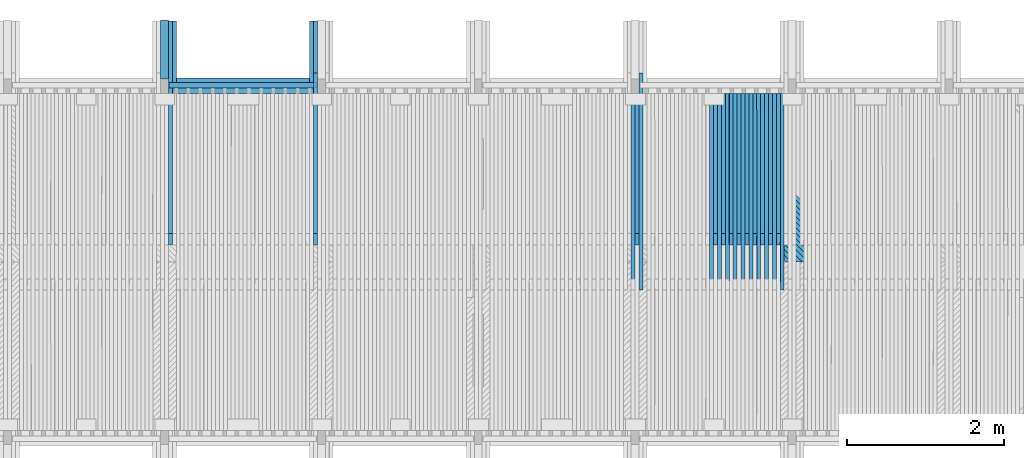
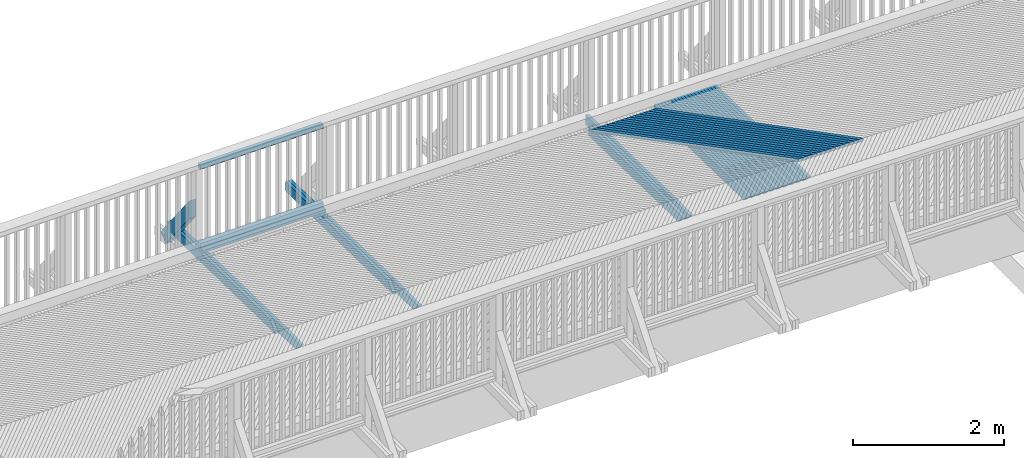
# One storey, part 36 of 53: 44 beams, 1 member.
"""IFC2X3 building model written with IfcOpenShell, lengths in millimetres."""

from ifc_helpers import new_model, si_unit, frame, origin_with_axes, place, context, subcontext, project, spatial, faceted_brep, material, type_object, element, save


model = new_model("IFC2X3")

# Units and contexts
model_context = context("Model", 3, precision=1e-05, world=origin_with_axes())
body_context = subcontext(model_context, "Body", "Model", "MODEL_VIEW")
ifc_project = project(units=[si_unit("LENGTHUNIT", "METRE", prefix="MILLI"), si_unit("AREAUNIT", "SQUARE_METRE"), si_unit("VOLUMEUNIT", "CUBIC_METRE"), si_unit("MASSUNIT", "GRAM", prefix="KILO"), si_unit("TIMEUNIT", "SECOND"), si_unit("PLANEANGLEUNIT", "RADIAN"), si_unit("SOLIDANGLEUNIT", "STERADIAN"), si_unit("THERMODYNAMICTEMPERATUREUNIT", "DEGREE_CELSIUS"), si_unit("LUMINOUSINTENSITYUNIT", "LUMEN")], contexts=[model_context])

# Site, building, storey
site_placement = place(None, origin_with_axes())
site = spatial("IfcSite", under=ifc_project, at=site_placement, Name="Undefined", CompositionType="ELEMENT")
building_placement = place(site_placement, origin_with_axes())
building = spatial("IfcBuilding", under=site, at=building_placement, Name="Undefined", CompositionType="ELEMENT")
storey_placement = place(building_placement, origin_with_axes())
storey = spatial("IfcBuildingStorey", under=building, at=storey_placement, Name="Undefined", CompositionType="ELEMENT", Elevation=0.0)

# Member
ifc_material = material(Name="TIMBER/Timber_Undefined")
member_type = type_object("IfcMemberType", Name="180*100", PredefinedType="NOTDEFINED")
member_placement = place(storey_placement, frame((4000.00641464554, 45378.7683991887, 2940.69175508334), z_axis=(0.0, 0.783926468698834, 0.620853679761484), x_axis=(-4.01699999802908e-06, -0.620853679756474, 0.78392646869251)))
element("IfcMember", 1, at=member_placement, inside=storey, type_object=member_type, material=ifc_material, Name="KAIDEPYLVÄS", ObjectType="180*100", context=body_context, shape_type="Brep", body=[
    faceted_brep([(0.0, 50.0, -89.9999999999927), (0.0, 50.0, 90.0), (1214.99440716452, 50.0, 90.0000000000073), (987.715792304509, 50.0, -89.9999999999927), (0.0, -49.9999999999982, 90.0000000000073), (1214.99480886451, -50.0, 90.0000000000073), (-3.63797880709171e-12, -49.9999999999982, -90.0), (987.716194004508, -49.9999999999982, -89.9999999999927)], [[[0, 1, 2, 3]], [[1, 4, 5, 2]], [[4, 6, 7, 5]], [[6, 0, 3, 7]], [[5, 7, 3, 2]], [[6, 4, 1, 0]]]),
])

# Beams
beam_type_1 = type_object("IfcBeamType", Name="70*70", PredefinedType="NOTDEFINED")
for number, where, z_axis, x_axis, name in (
    (2, (4060.18309001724, 44619.9900684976, 3250.0866908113), (0.0, 1.0, 0.0), (0.999986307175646, 0.0, 0.00523311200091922), "BEAM"),
    (3, (4060.18309001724, 44619.9900684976, 4515.0866908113), (0.0, 1.0, 0.0), (0.999986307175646, 0.0, 0.00523311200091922), "BEAM"),
):
    element("IfcBeam", number, at=place(storey_placement, frame(where, z_axis=z_axis, x_axis=x_axis)), inside=storey, type_object=beam_type_1, material=ifc_material, Name=name, ObjectType="70*70", context=body_context, shape_type="Brep", body=[
        faceted_brep([(-3.63797880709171e-12, 35.0000000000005, -35.0), (-3.63797880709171e-12, 35.0000000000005, 35.0), (1880.02601672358, 34.9999999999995, 35.0), (1880.02601672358, 34.9999999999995, -35.0), (-3.63797880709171e-12, -34.9999999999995, 35.0), (1880.02601672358, -35.0000000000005, 35.0), (-3.63797880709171e-12, -34.9999999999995, -35.0), (1880.02601672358, -35.0000000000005, -35.0)], [[[0, 1, 2, 3]], [[1, 4, 5, 2]], [[4, 6, 7, 5]], [[6, 0, 3, 7]], [[5, 7, 3, 2]], [[6, 4, 1, 0]]]),
    ])
beam_type_2 = type_object("IfcBeamType", Name="195*40", PredefinedType="NOTDEFINED")
beam_1_placement = place(storey_placement, frame((4059.61460211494, 44612.4900684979, 3195.09221066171), z_axis=(0.0, 1.0, 0.0), x_axis=(0.999986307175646, 0.0, 0.00523311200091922)))
element("IfcBeam", 4, at=beam_1_placement, inside=storey, type_object=beam_type_2, material=ifc_material, Name="BEAM", ObjectType="195*40", context=body_context, shape_type="Brep", body=[
    faceted_brep([(0.0, 20.0, -97.5), (0.0, 20.0, 97.5), (1880.22135781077, 19.9999999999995, 97.5), (1880.22135781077, 19.9999999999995, -97.5), (3.63797880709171e-12, -20.0, 97.5), (1880.22135781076, -20.0000000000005, 97.5), (3.63797880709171e-12, -20.0, -97.5), (1880.22135781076, -20.0000000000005, -97.5)], [[[0, 1, 2, 3]], [[1, 4, 5, 2]], [[4, 6, 7, 5]], [[6, 0, 3, 7]], [[5, 7, 3, 2]], [[6, 4, 1, 0]]]),
])
beam_type_3 = type_object("IfcBeamType", Name="50*50", PredefinedType="NOTDEFINED")
for number, where, z_axis, x_axis, name in (
    (5, (12874.2769605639, 42365.4998996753, 3216.39230435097), (0.70698710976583, 0.706981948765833, -0.0185943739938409), (-0.707198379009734, 0.706948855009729, -0.00968344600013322), "BEAM"),
    (6, (12803.5550110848, 42365.4998996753, 3216.96068661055), (0.706989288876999, 0.706981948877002, -0.0185113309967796), (-0.707197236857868, 0.706948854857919, -0.00976651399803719), "BEAM"),
    (7, (12732.832995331, 42365.4998996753, 3217.52076181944), (0.706991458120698, 0.706981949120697, -0.0184282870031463), (-0.707196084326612, 0.706948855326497, -0.00984958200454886), "BEAM"),
    (8, (12662.1109142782, 42365.4998996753, 3218.07252996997), (0.706993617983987, 0.706981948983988, -0.0183452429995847), (-0.707194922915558, 0.706948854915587, -0.00993264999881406), "BEAM"),
    (9, (12591.3887689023, 42365.4998996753, 3218.61599105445), (0.706995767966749, 0.706981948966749, -0.0182621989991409), (-0.707193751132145, 0.706948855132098, -0.0100157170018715), "BEAM"),
    (10, (12520.666560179, 42365.4998996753, 3219.15114506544), (0.706997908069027, 0.706981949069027, -0.0181791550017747), (-0.707192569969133, 0.706948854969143, -0.0100987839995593), "BEAM"),
    (11, (12449.944289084, 42365.4998996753, 3219.67799199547), (0.707000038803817, 0.706981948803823, -0.0180961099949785), (-0.707191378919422, 0.706948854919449, -0.0101818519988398), "BEAM"),
    (12, (12379.2219565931, 42365.4998996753, 3220.19653183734), (0.70700215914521, 0.706981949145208, -0.0180130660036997), (-0.707190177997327, 0.706948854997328, -0.0102649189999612), "BEAM"),
    (13, (12308.499563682, 42365.4998996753, 3220.70676458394), (0.707004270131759, 0.706981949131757, -0.0179300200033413), (-0.707188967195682, 0.706948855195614, -0.0103479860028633), "BEAM"),
    (14, (12237.7771113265, 42365.4998996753, 3221.20869022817), (0.707006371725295, 0.706981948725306, -0.0178469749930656), (-0.707187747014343, 0.706948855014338, -0.0104310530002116), "BEAM"),
    (15, (12167.0546005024, 42365.4998996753, 3221.70230876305), (0.707008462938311, 0.706981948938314, -0.0177639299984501), (-0.70718651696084, 0.706948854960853, -0.0105141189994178), "BEAM"),
    (16, (12096.3320321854, 42365.4998996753, 3222.18762018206), (0.707010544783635, 0.706981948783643, -0.017680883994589), (-0.707185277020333, 0.706948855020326, -0.0105971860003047), "BEAM"),
    (17, (12025.6094073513, 42365.4998996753, 3222.66462447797), (0.70701261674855, 0.706981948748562, -0.0175978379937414), (-0.707184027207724, 0.706948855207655, -0.0106802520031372), "BEAM"),
    (18, (11954.8867269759, 42365.4998996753, 3223.13332164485), (0.707014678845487, 0.706981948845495, -0.0175147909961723), (-0.707182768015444, 0.706948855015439, -0.0107633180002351), "BEAM"),
):
    element("IfcBeam", number, at=place(storey_placement, frame(where, z_axis=z_axis, x_axis=x_axis)), inside=storey, type_object=beam_type_3, material=ifc_material, Name=name, ObjectType="50*50", context=body_context, shape_type="Brep", body=[
        faceted_brep([(23.5869248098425, 25.0000000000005, -24.9999999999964), (-26.415415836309, 25.0000000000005, 25.0000000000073), (2802.92643296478, 25.0, 25.0), (2852.92877373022, 25.0, -25.0000000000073), (-25.001170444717, -24.9999999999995, 25.0000000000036), (2804.3406783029, -25.0, 24.9999999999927), (25.0011701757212, -24.9999999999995, -24.9999999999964), (2854.34301907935, -25.0, -25.0)], [[[0, 1, 2, 3]], [[1, 4, 5, 2]], [[4, 6, 7, 5]], [[6, 0, 3, 7]], [[5, 7, 3, 2]], [[6, 4, 1, 0]]]),
    ])
beam_type_4 = type_object("IfcBeamType", Name="150*50", PredefinedType="NOTDEFINED")
beam_2_placement = place(storey_placement, frame((4125.55027576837, 45437.2106523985, 3062.2023750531), z_axis=(-0.00643456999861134, 0.0199960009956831, 0.999779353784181), x_axis=(-0.000130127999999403, -0.999800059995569, 0.0199955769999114)))
element("IfcBeam", 19, at=beam_2_placement, inside=storey, type_object=beam_type_4, material=ifc_material, Name="BEAM", ObjectType="150*50", context=body_context, shape_type="Brep", body=[
    faceted_brep([(1.28420651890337e-08, -24.9999999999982, -74.9999999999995), (1.28420651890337e-08, 25.0000000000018, -75.0), (3298.90492234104, 25.0, -75.0), (3298.90497884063, -24.9999999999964, -75.0), (-1.28347892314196e-08, -24.9999999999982, 75.0), (-1.28347892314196e-08, 25.0, 75.0), (3074.32503673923, 25.0000000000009, 75.0), (3434.49245887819, 25.0, 60.5875365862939), (3434.49251531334, -24.9999999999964, 60.587536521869), (3074.32509060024, -24.9999999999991, 75.0)], [[[0, 1, 2, 3]], [[0, 4, 5, 1]], [[2, 1, 5, 6, 7]], [[3, 2, 7, 8]], [[4, 0, 3, 8, 9]], [[5, 4, 9, 6]], [[8, 7, 6, 9]]]),
])
beam_3_placement = place(storey_placement, frame((4075.53352582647, 45437.2106678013, 3061.88046641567), z_axis=(-0.00660068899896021, 0.01999600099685, 0.999778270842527), x_axis=(-0.000133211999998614, -0.999800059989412, 0.0199955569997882)))
element("IfcBeam", 20, at=beam_3_placement, inside=storey, type_object=beam_type_4, material=ifc_material, Name="BEAM", ObjectType="150*50", context=body_context, shape_type="Brep", body=[
    faceted_brep([(1.28420651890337e-08, -24.9999999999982, -74.9999999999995), (-1.28347892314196e-08, -24.9999999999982, 75.0), (-1.28347892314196e-08, 25.0, 75.0), (1.28420651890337e-08, 25.0000000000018, -75.0), (2852.32643692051, 24.9999999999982, -75.0000000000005), (2852.32648139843, -25.0000000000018, -75.0000000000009), (2713.86938248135, -25.0000000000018, 74.9999999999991), (2713.86933800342, 25.0000000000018, 75.0)], [[[0, 1, 2, 3]], [[0, 3, 4, 5]], [[1, 0, 5, 6]], [[2, 1, 6, 7]], [[3, 2, 7, 4]], [[5, 4, 7, 6]]]),
])
beam_4_placement = place(storey_placement, frame((5875.30203746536, 45437.2106832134, 3070.92534624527), z_axis=(-0.00361070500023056, 0.0199960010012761, 0.999793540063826), x_axis=(-7.09809999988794e-05, -0.999800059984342, 0.0199958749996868)))
element("IfcBeam", 21, at=beam_4_placement, inside=storey, type_object=beam_type_4, material=ifc_material, Name="BEAM", ObjectType="150*50", context=body_context, shape_type="Brep", body=[
    faceted_brep([(1.28420651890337e-08, -24.9999999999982, -74.9999999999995), (-1.28347892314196e-08, -24.9999999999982, 75.0), (-1.28347892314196e-08, 25.0, 75.0), (1.28420651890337e-08, 25.0000000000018, -75.0), (2852.32649585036, 25.0, -74.9999999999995), (2852.32641872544, -25.0, -74.9999999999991), (2713.86931991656, -25.0, 75.0), (2713.86939704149, 24.9999999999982, 75.0000000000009)], [[[0, 1, 2, 3]], [[0, 3, 4, 5]], [[1, 0, 5, 6]], [[2, 1, 6, 7]], [[3, 2, 7, 4]], [[5, 4, 7, 6]]]),
])
beam_5_placement = place(storey_placement, frame((5925.32402066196, 45437.2106678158, 3071.09768860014), z_axis=(-0.00344458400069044, 0.0199960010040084, 0.999794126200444), x_axis=(-6.91999999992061e-05, -0.999800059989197, 0.019995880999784)))
element("IfcBeam", 22, at=beam_5_placement, inside=storey, type_object=beam_type_4, material=ifc_material, Name="BEAM", ObjectType="150*50", context=body_context, shape_type="Brep", body=[
    faceted_brep([(1.28420651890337e-08, -24.9999999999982, -74.9999999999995), (1.28420651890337e-08, 25.0000000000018, -75.0), (3298.90492234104, 25.0, -75.0), (3298.90497884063, -24.9999999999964, -75.0), (-1.28347892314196e-08, -24.9999999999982, 75.0), (-1.28347892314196e-08, 25.0, 75.0), (3074.32503673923, 25.0000000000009, 75.0), (3434.49245887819, 25.0, 60.5875365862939), (3434.49251531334, -24.9999999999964, 60.587536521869), (3074.32503029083, -25.0, 75.0000000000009)], [[[0, 1, 2, 3]], [[0, 4, 5, 1]], [[2, 1, 5, 6, 7]], [[3, 2, 7, 8]], [[4, 0, 3, 8, 9]], [[5, 4, 9, 6]], [[8, 7, 6, 9]]]),
])
for number, where, z_axis, x_axis, name in (
    (23, (11875.3256007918, 44513.4953923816, 3080.67367306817), (0.0063570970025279, 0.0199960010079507, 0.999779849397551), (0.000127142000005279, -0.99980006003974, 0.0199955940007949), "BEAM"),
    (24, (11775.3075869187, 44513.4953923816, 3081.30926986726), (0.00619097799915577, 0.019996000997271, 0.999780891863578), (0.000123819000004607, -0.999800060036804, 0.019995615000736), "BEAM"),
):
    element("IfcBeam", number, at=place(storey_placement, frame(where, z_axis=z_axis, x_axis=x_axis)), inside=storey, type_object=beam_type_4, material=ifc_material, Name=name, ObjectType="150*50", context=body_context, shape_type="Brep", body=[
        faceted_brep([(1.28420651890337e-08, -24.9999999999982, -74.9999999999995), (1.28420651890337e-08, 25.0000000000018, -75.0), (2375.00494422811, 25.0000000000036, -75.0), (2375.0049444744, -24.9999999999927, -74.9999999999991), (-1.28347892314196e-08, -24.9999999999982, 75.0), (-1.28347892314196e-08, 25.0, 75.0), (2150.42515052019, 25.0000000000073, 75.0), (2510.59248715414, 25.0000000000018, 60.5875433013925), (2510.5924871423, -24.9999999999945, 60.5875430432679), (2150.42514405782, -24.9999999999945, 75.0)], [[[0, 1, 2, 3]], [[0, 4, 5, 1]], [[2, 1, 5, 6, 7]], [[3, 2, 7, 8]], [[4, 0, 3, 8, 9]], [[5, 4, 9, 6]], [[8, 7, 6, 9]]]),
    ])
beam_6_placement = place(storey_placement, frame((11825.3266087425, 44513.4953923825, 3080.99122584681), z_axis=(0.0063570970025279, 0.0199960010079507, 0.999779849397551), x_axis=(0.000127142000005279, -0.99980006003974, 0.0199955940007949)))
element("IfcBeam", 25, at=beam_6_placement, inside=storey, type_object=beam_type_4, material=ifc_material, Name="BEAM", ObjectType="150*50", context=body_context, shape_type="Brep", body=[
    faceted_brep([(1.28420651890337e-08, -24.9999999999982, -74.9999999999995), (-1.28347892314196e-08, -24.9999999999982, 75.0), (-1.28347892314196e-08, 25.0, 75.0), (1.28420651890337e-08, 25.0000000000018, -75.0), (1789.96936408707, 24.9999999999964, 75.0000000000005), (1928.42646328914, 24.9999999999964, -74.9999999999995), (1928.42646353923, -25.0000000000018, -75.0), (1789.96936433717, -25.0000000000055, 74.9999999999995)], [[[0, 1, 2, 3]], [[3, 2, 4, 5]], [[0, 3, 5, 6]], [[1, 0, 6, 7]], [[2, 1, 7, 4]], [[5, 4, 7, 6]]]),
])
beam_7_placement = place(storey_placement, frame((11675.2894688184, 44513.4953923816, 3081.92824813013), z_axis=(0.00602485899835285, 0.0199960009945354, 0.9997819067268), x_axis=(0.000120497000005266, -0.9998000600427, 0.019995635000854)))
element("IfcBeam", 26, at=beam_7_placement, inside=storey, type_object=beam_type_4, material=ifc_material, Name="BEAM", ObjectType="150*50", context=body_context, shape_type="Brep", body=[
    faceted_brep([(1.28420651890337e-08, -24.9999999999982, -74.9999999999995), (1.28420651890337e-08, 25.0000000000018, -75.0), (2375.00494422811, 25.0000000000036, -75.0), (2375.0049444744, -24.9999999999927, -74.9999999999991), (-1.28347892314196e-08, -24.9999999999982, 75.0), (-1.28347892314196e-08, 25.0, 75.0), (2150.42515052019, 25.0000000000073, 75.0), (2510.59248715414, 25.0000000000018, 60.5875433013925), (2510.5924871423, -24.9999999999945, 60.5875430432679), (2150.42514405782, -24.9999999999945, 75.0)], [[[0, 1, 2, 3]], [[0, 4, 5, 1]], [[2, 1, 5, 6, 7]], [[3, 2, 7, 8]], [[4, 0, 3, 8, 9]], [[5, 4, 9, 6]], [[8, 7, 6, 9]]]),
])
beam_8_placement = place(storey_placement, frame((11725.3085427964, 44513.4953923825, 3081.61851504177), z_axis=(0.00619097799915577, 0.019996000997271, 0.999780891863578), x_axis=(0.000123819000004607, -0.999800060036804, 0.019995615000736)))
element("IfcBeam", 27, at=beam_8_placement, inside=storey, type_object=beam_type_4, material=ifc_material, Name="BEAM", ObjectType="150*50", context=body_context, shape_type="Brep", body=[
    faceted_brep([(1.28420651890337e-08, -24.9999999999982, -74.9999999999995), (-1.28347892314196e-08, -24.9999999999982, 75.0), (-1.28347892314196e-08, 25.0, 75.0), (1.28420651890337e-08, 25.0000000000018, -75.0), (1789.96936408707, 24.9999999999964, 75.0000000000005), (1928.42646328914, 24.9999999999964, -74.9999999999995), (1928.42646353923, -25.0000000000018, -75.0), (1789.96936433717, -25.0000000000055, 74.9999999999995)], [[[0, 1, 2, 3]], [[3, 2, 4, 5]], [[0, 3, 5, 6]], [[1, 0, 6, 7]], [[2, 1, 7, 4]], [[5, 4, 7, 6]]]),
])
beam_9_placement = place(storey_placement, frame((11575.2712492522, 44513.4953923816, 3082.53060783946), z_axis=(0.00585873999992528, 0.0199960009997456, 0.999782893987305), x_axis=(0.000117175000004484, -0.999800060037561, 0.0199956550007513)))
element("IfcBeam", 28, at=beam_9_placement, inside=storey, type_object=beam_type_4, material=ifc_material, Name="BEAM", ObjectType="150*50", context=body_context, shape_type="Brep", body=[
    faceted_brep([(1.28420651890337e-08, -24.9999999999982, -74.9999999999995), (1.28420651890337e-08, 25.0000000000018, -75.0), (2375.00494422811, 25.0000000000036, -75.0), (2375.0049444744, -24.9999999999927, -74.9999999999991), (-1.28347892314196e-08, -24.9999999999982, 75.0), (-1.28347892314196e-08, 25.0, 75.0), (2150.42515052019, 25.0000000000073, 75.0), (2510.59248715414, 25.0000000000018, 60.5875433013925), (2510.5924871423, -24.9999999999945, 60.5875430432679), (2150.42514405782, -24.9999999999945, 75.0)], [[[0, 1, 2, 3]], [[0, 4, 5, 1]], [[2, 1, 5, 6, 7]], [[3, 2, 7, 8]], [[4, 0, 3, 8, 9]], [[5, 4, 9, 6]], [[8, 7, 6, 9]]]),
])
beam_10_placement = place(storey_placement, frame((11625.2903740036, 44513.4953923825, 3082.22918569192), z_axis=(0.00602485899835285, 0.0199960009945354, 0.9997819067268), x_axis=(0.000120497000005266, -0.9998000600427, 0.019995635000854)))
element("IfcBeam", 29, at=beam_10_placement, inside=storey, type_object=beam_type_4, material=ifc_material, Name="BEAM", ObjectType="150*50", context=body_context, shape_type="Brep", body=[
    faceted_brep([(1.28420651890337e-08, -24.9999999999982, -74.9999999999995), (-1.28347892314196e-08, -24.9999999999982, 75.0), (-1.28347892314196e-08, 25.0, 75.0), (1.28420651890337e-08, 25.0000000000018, -75.0), (1789.96936408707, 24.9999999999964, 75.0000000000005), (1928.42646328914, 24.9999999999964, -74.9999999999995), (1928.42646353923, -25.0000000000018, -75.0), (1789.96936433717, -25.0000000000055, 74.9999999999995)], [[[0, 1, 2, 3]], [[3, 2, 4, 5]], [[0, 3, 5, 6]], [[1, 0, 6, 7]], [[2, 1, 7, 4]], [[5, 4, 7, 6]]]),
])
beam_11_placement = place(storey_placement, frame((11475.2529309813, 44513.4953923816, 3083.11634897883), z_axis=(0.00569262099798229, 0.0199960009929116, 0.999783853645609), x_axis=(0.000113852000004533, -0.999800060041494, 0.0199956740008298)))
element("IfcBeam", 30, at=beam_11_placement, inside=storey, type_object=beam_type_4, material=ifc_material, Name="BEAM", ObjectType="150*50", context=body_context, shape_type="Brep", body=[
    faceted_brep([(1.28420651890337e-08, -24.9999999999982, -74.9999999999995), (1.28420651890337e-08, 25.0000000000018, -75.0), (2375.00494422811, 25.0000000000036, -75.0), (2375.0049444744, -24.9999999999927, -74.9999999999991), (-1.28347892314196e-08, -24.9999999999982, 75.0), (-1.28347892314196e-08, 25.0, 75.0), (2150.42515052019, 25.0000000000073, 75.0), (2510.59248715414, 25.0000000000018, 60.5875433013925), (2510.5924871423, -24.9999999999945, 60.5875430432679), (2150.42514405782, -24.9999999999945, 75.0)], [[[0, 1, 2, 3]], [[0, 4, 5, 1]], [[2, 1, 5, 6, 7]], [[3, 2, 7, 8]], [[4, 0, 3, 8, 9]], [[5, 4, 9, 6]], [[8, 7, 6, 9]]]),
])
beam_12_placement = place(storey_placement, frame((11525.2721051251, 44513.4953923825, 3082.82323778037), z_axis=(0.00585873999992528, 0.0199960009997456, 0.999782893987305), x_axis=(0.000117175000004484, -0.999800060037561, 0.0199956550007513)))
element("IfcBeam", 31, at=beam_12_placement, inside=storey, type_object=beam_type_4, material=ifc_material, Name="BEAM", ObjectType="150*50", context=body_context, shape_type="Brep", body=[
    faceted_brep([(1.28420651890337e-08, -24.9999999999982, -74.9999999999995), (-1.28347892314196e-08, -24.9999999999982, 75.0), (-1.28347892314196e-08, 25.0, 75.0), (1.28420651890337e-08, 25.0000000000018, -75.0), (1789.96936408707, 24.9999999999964, 75.0000000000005), (1928.42646328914, 24.9999999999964, -74.9999999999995), (1928.42646353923, -25.0000000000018, -75.0), (1789.96936433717, -25.0000000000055, 74.9999999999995)], [[[0, 1, 2, 3]], [[3, 2, 4, 5]], [[0, 3, 5, 6]], [[1, 0, 6, 7]], [[2, 1, 7, 4]], [[5, 4, 7, 6]]]),
])
beam_13_placement = place(storey_placement, frame((11375.234516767, 44513.4953923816, 3083.68547153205), z_axis=(0.00552650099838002, 0.0199960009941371, 0.999784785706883), x_axis=(0.000110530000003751, -0.999800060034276, 0.0199956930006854)))
element("IfcBeam", 32, at=beam_13_placement, inside=storey, type_object=beam_type_4, material=ifc_material, Name="BEAM", ObjectType="150*50", context=body_context, shape_type="Brep", body=[
    faceted_brep([(1.28420651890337e-08, -24.9999999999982, -74.9999999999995), (1.28420651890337e-08, 25.0000000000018, -75.0), (2375.00494422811, 25.0000000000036, -75.0), (2375.0049444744, -24.9999999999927, -74.9999999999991), (-1.28347892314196e-08, -24.9999999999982, 75.0), (-1.28347892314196e-08, 25.0, 75.0), (2150.42515052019, 25.0000000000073, 75.0), (2510.59248715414, 25.0000000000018, 60.5875433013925), (2510.5924871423, -24.9999999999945, 60.5875430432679), (2150.42514405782, -24.9999999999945, 75.0)], [[[0, 1, 2, 3]], [[0, 4, 5, 1]], [[2, 1, 5, 6, 7]], [[3, 2, 7, 8]], [[4, 0, 3, 8, 9]], [[5, 4, 9, 6]], [[8, 7, 6, 9]]]),
])
beam_14_placement = place(storey_placement, frame((11425.2537389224, 44513.4953923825, 3083.4006712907), z_axis=(0.00569262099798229, 0.0199960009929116, 0.999783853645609), x_axis=(0.000113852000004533, -0.999800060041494, 0.0199956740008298)))
element("IfcBeam", 33, at=beam_14_placement, inside=storey, type_object=beam_type_4, material=ifc_material, Name="BEAM", ObjectType="150*50", context=body_context, shape_type="Brep", body=[
    faceted_brep([(1.28420651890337e-08, -24.9999999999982, -74.9999999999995), (-1.28347892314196e-08, -24.9999999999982, 75.0), (-1.28347892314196e-08, 25.0, 75.0), (1.28420651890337e-08, 25.0000000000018, -75.0), (1789.96936408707, 24.9999999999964, 75.0000000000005), (1928.42646328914, 24.9999999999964, -74.9999999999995), (1928.42646353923, -25.0000000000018, -75.0), (1789.96936433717, -25.0000000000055, 74.9999999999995)], [[[0, 1, 2, 3]], [[3, 2, 4, 5]], [[0, 3, 5, 6]], [[1, 0, 6, 7]], [[2, 1, 7, 4]], [[5, 4, 7, 6]]]),
])
beam_15_placement = place(storey_placement, frame((11275.2160093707, 44513.4953923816, 3084.23797548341), z_axis=(0.00536038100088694, 0.0199960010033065, 0.999785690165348), x_axis=(0.000107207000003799, -0.999800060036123, 0.0199957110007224)))
element("IfcBeam", 34, at=beam_15_placement, inside=storey, type_object=beam_type_4, material=ifc_material, Name="BEAM", ObjectType="150*50", context=body_context, shape_type="Brep", body=[
    faceted_brep([(1.28420651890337e-08, -24.9999999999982, -74.9999999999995), (1.28420651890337e-08, 25.0000000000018, -75.0), (2375.00494422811, 25.0000000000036, -75.0), (2375.0049444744, -24.9999999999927, -74.9999999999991), (-1.28347892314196e-08, -24.9999999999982, 75.0), (-1.28347892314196e-08, 25.0, 75.0), (2150.42515052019, 25.0000000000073, 75.0), (2510.59248715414, 25.0000000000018, 60.5875433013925), (2510.5924871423, -24.9999999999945, 60.5875430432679), (2150.42514405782, -24.9999999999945, 75.0)], [[[0, 1, 2, 3]], [[0, 4, 5, 1]], [[2, 1, 5, 6, 7]], [[3, 2, 7, 8]], [[4, 0, 3, 8, 9]], [[5, 4, 9, 6]], [[8, 7, 6, 9]]]),
])
beam_16_placement = place(storey_placement, frame((11325.2352781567, 44513.4953923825, 3083.96148620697), z_axis=(0.00552650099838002, 0.0199960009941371, 0.999784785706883), x_axis=(0.000110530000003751, -0.999800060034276, 0.0199956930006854)))
element("IfcBeam", 35, at=beam_16_placement, inside=storey, type_object=beam_type_4, material=ifc_material, Name="BEAM", ObjectType="150*50", context=body_context, shape_type="Brep", body=[
    faceted_brep([(1.28420651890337e-08, -24.9999999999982, -74.9999999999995), (-1.28347892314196e-08, -24.9999999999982, 75.0), (-1.28347892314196e-08, 25.0, 75.0), (1.28420651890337e-08, 25.0000000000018, -75.0), (1789.96936408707, 24.9999999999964, 75.0000000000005), (1928.42646328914, 24.9999999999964, -74.9999999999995), (1928.42646353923, -25.0000000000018, -75.0), (1789.96936433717, -25.0000000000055, 74.9999999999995)], [[[0, 1, 2, 3]], [[3, 2, 4, 5]], [[0, 3, 5, 6]], [[1, 0, 6, 7]], [[2, 1, 7, 4]], [[5, 4, 7, 6]]]),
])
beam_17_placement = place(storey_placement, frame((11175.1974115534, 44513.4953923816, 3084.77386081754), z_axis=(0.00519426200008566, 0.0199960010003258, 0.999786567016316), x_axis=(0.000103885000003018, -0.999800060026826, 0.0199957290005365)))
element("IfcBeam", 36, at=beam_17_placement, inside=storey, type_object=beam_type_4, material=ifc_material, Name="BEAM", ObjectType="150*50", context=body_context, shape_type="Brep", body=[
    faceted_brep([(1.28420651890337e-08, -24.9999999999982, -74.9999999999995), (1.28420651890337e-08, 25.0000000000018, -75.0), (2375.00494422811, 25.0000000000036, -75.0), (2375.0049444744, -24.9999999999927, -74.9999999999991), (-1.28347892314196e-08, -24.9999999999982, 75.0), (-1.28347892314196e-08, 25.0, 75.0), (2150.42515052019, 25.0000000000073, 75.0), (2510.59248715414, 25.0000000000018, 60.5875433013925), (2510.5924871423, -24.9999999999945, 60.5875430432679), (2150.42514405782, -24.9999999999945, 75.0)], [[[0, 1, 2, 3]], [[0, 4, 5, 1]], [[2, 1, 5, 6, 7]], [[3, 2, 7, 8]], [[4, 0, 3, 8, 9]], [[5, 4, 9, 6]], [[8, 7, 6, 9]]]),
])
beam_18_placement = place(storey_placement, frame((11225.2167255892, 44513.4953923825, 3084.50568251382), z_axis=(0.00536038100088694, 0.0199960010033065, 0.999785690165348), x_axis=(0.000107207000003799, -0.999800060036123, 0.0199957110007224)))
element("IfcBeam", 37, at=beam_18_placement, inside=storey, type_object=beam_type_4, material=ifc_material, Name="BEAM", ObjectType="150*50", context=body_context, shape_type="Brep", body=[
    faceted_brep([(1.28420651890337e-08, -24.9999999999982, -74.9999999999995), (-1.28347892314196e-08, -24.9999999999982, 75.0), (-1.28347892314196e-08, 25.0, 75.0), (1.28420651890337e-08, 25.0000000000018, -75.0), (1789.96936408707, 24.9999999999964, 75.0000000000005), (1928.42646328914, 24.9999999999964, -74.9999999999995), (1928.42646353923, -25.0000000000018, -75.0), (1789.96936433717, -25.0000000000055, 74.9999999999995)], [[[0, 1, 2, 3]], [[3, 2, 4, 5]], [[0, 3, 5, 6]], [[1, 0, 6, 7]], [[2, 1, 7, 4]], [[5, 4, 7, 6]]]),
])
beam_19_placement = place(storey_placement, frame((11075.1787260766, 44513.4953923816, 3085.29312751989), z_axis=(0.005028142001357, 0.0199960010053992, 0.999787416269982), x_axis=(0.000100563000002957, -0.999800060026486, 0.0199957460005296)))
element("IfcBeam", 38, at=beam_19_placement, inside=storey, type_object=beam_type_4, material=ifc_material, Name="BEAM", ObjectType="150*50", context=body_context, shape_type="Brep", body=[
    faceted_brep([(1.28420651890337e-08, -24.9999999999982, -74.9999999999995), (1.28420651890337e-08, 25.0000000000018, -75.0), (2375.00494422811, 25.0000000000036, -75.0), (2375.0049444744, -24.9999999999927, -74.9999999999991), (-1.28347892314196e-08, -24.9999999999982, 75.0), (-1.28347892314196e-08, 25.0, 75.0), (2150.42515052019, 25.0000000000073, 75.0), (2510.59248715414, 25.0000000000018, 60.5875433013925), (2510.5924871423, -24.9999999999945, 60.5875430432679), (2150.42514405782, -24.9999999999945, 75.0)], [[[0, 1, 2, 3]], [[0, 4, 5, 1]], [[2, 1, 5, 6, 7]], [[3, 2, 7, 8]], [[4, 0, 3, 8, 9]], [[5, 4, 9, 6]], [[8, 7, 6, 9]]]),
])
beam_20_placement = place(storey_placement, frame((11125.1980839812, 44513.4953923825, 3085.03326019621), z_axis=(0.00519426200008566, 0.0199960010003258, 0.999786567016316), x_axis=(0.000103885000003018, -0.999800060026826, 0.0199957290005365)))
element("IfcBeam", 39, at=beam_20_placement, inside=storey, type_object=beam_type_4, material=ifc_material, Name="BEAM", ObjectType="150*50", context=body_context, shape_type="Brep", body=[
    faceted_brep([(1.28420651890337e-08, -24.9999999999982, -74.9999999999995), (-1.28347892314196e-08, -24.9999999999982, 75.0), (-1.28347892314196e-08, 25.0, 75.0), (1.28420651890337e-08, 25.0000000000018, -75.0), (1789.96936408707, 24.9999999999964, 75.0000000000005), (1928.42646328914, 24.9999999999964, -74.9999999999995), (1928.42646353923, -25.0000000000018, -75.0), (1789.96936433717, -25.0000000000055, 74.9999999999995)], [[[0, 1, 2, 3]], [[3, 2, 4, 5]], [[0, 3, 5, 6]], [[1, 0, 6, 7]], [[2, 1, 7, 4]], [[5, 4, 7, 6]]]),
])
beam_21_placement = place(storey_placement, frame((10975.1599557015, 44513.4953923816, 3085.79577557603), z_axis=(0.00486202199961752, 0.0199960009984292, 0.999788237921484), x_axis=(9.72400000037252e-05, -0.999800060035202, 0.019995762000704)))
element("IfcBeam", 40, at=beam_21_placement, inside=storey, type_object=beam_type_4, material=ifc_material, Name="BEAM", ObjectType="150*50", context=body_context, shape_type="Brep", body=[
    faceted_brep([(1.28420651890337e-08, -24.9999999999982, -74.9999999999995), (1.28420651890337e-08, 25.0000000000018, -75.0), (2375.00494422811, 25.0000000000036, -75.0), (2375.0049444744, -24.9999999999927, -74.9999999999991), (-1.28347892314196e-08, -24.9999999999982, 75.0), (-1.28347892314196e-08, 25.0, 75.0), (2150.42515052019, 25.0000000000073, 75.0), (2510.59248715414, 25.0000000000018, 60.5875433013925), (2510.5924871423, -24.9999999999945, 60.5875430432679), (2150.42514405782, -24.9999999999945, 75.0)], [[[0, 1, 2, 3]], [[0, 4, 5, 1]], [[2, 1, 5, 6, 7]], [[3, 2, 7, 8]], [[4, 0, 3, 8, 9]], [[5, 4, 9, 6]], [[8, 7, 6, 9]]]),
])
beam_22_placement = place(storey_placement, frame((11025.179356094, 44513.4953923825, 3085.5442192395), z_axis=(0.005028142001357, 0.0199960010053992, 0.999787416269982), x_axis=(0.000100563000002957, -0.999800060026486, 0.0199957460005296)))
element("IfcBeam", 41, at=beam_22_placement, inside=storey, type_object=beam_type_4, material=ifc_material, Name="BEAM", ObjectType="150*50", context=body_context, shape_type="Brep", body=[
    faceted_brep([(1.28420651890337e-08, -24.9999999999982, -74.9999999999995), (-1.28347892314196e-08, -24.9999999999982, 75.0), (-1.28347892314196e-08, 25.0, 75.0), (1.28420651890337e-08, 25.0000000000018, -75.0), (1789.96936408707, 24.9999999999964, 75.0000000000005), (1928.42646328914, 24.9999999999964, -74.9999999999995), (1928.42646353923, -25.0000000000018, -75.0), (1789.96936433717, -25.0000000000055, 74.9999999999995)], [[[0, 1, 2, 3]], [[3, 2, 4, 5]], [[0, 3, 5, 6]], [[1, 0, 6, 7]], [[2, 1, 7, 4]], [[5, 4, 7, 6]]]),
])
beam_23_placement = place(storey_placement, frame((9974.96819002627, 44513.4953923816, 3089.90822776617), z_axis=(0.00319994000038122, 0.0199960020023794, 0.999794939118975), x_axis=(6.36899999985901e-05, -0.99980005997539, 0.0199958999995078)))
element("IfcBeam", 42, at=beam_23_placement, inside=storey, type_object=beam_type_4, material=ifc_material, Name="BEAM", ObjectType="150*50", context=body_context, shape_type="Brep", body=[
    faceted_brep([(1.28420651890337e-08, -24.9999999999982, -74.9999999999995), (1.28420651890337e-08, 25.0000000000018, -75.0), (2375.00494422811, 25.0000000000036, -75.0), (2375.0049444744, -24.9999999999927, -74.9999999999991), (-1.28347892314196e-08, -24.9999999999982, 75.0), (-1.28347892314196e-08, 25.0, 75.0), (2150.42515052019, 25.0000000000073, 75.0), (2510.59248715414, 25.0000000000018, 60.5875433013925), (2510.5924871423, -24.9999999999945, 60.5875430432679), (2150.42514405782, -24.9999999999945, 75.0)], [[[0, 1, 2, 3]], [[0, 4, 5, 1]], [[2, 1, 5, 6, 7]], [[3, 2, 7, 8]], [[4, 0, 3, 8, 9]], [[5, 4, 9, 6]], [[8, 7, 6, 9]]]),
])
beam_24_placement = place(storey_placement, frame((10024.987939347, 44513.4953923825, 3089.73978164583), z_axis=(0.00336606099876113, 0.0199960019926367, 0.999794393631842), x_axis=(6.73390000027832e-05, -0.999800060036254, 0.0199958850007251)))
element("IfcBeam", 43, at=beam_24_placement, inside=storey, type_object=beam_type_4, material=ifc_material, Name="BEAM", ObjectType="150*50", context=body_context, shape_type="Brep", body=[
    faceted_brep([(1.28420651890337e-08, -24.9999999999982, -74.9999999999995), (-1.28347892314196e-08, -24.9999999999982, 75.0), (-1.28347892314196e-08, 25.0, 75.0), (1.28420651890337e-08, 25.0000000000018, -75.0), (1789.96936408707, 24.9999999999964, 75.0000000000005), (1928.42646328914, 24.9999999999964, -74.9999999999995), (1928.42646353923, -25.0000000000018, -75.0), (1789.96936433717, -25.0000000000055, 74.9999999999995)], [[[0, 1, 2, 3]], [[3, 2, 4, 5]], [[0, 3, 5, 6]], [[1, 0, 6, 7]], [[2, 1, 7, 4]], [[5, 4, 7, 6]]]),
])
beam_25_placement = place(storey_placement, frame((10075.0449693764, 44771.443807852, 3084.41228108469), z_axis=(0.00336606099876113, 0.0199960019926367, 0.999794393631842), x_axis=(6.73390000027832e-05, -0.999800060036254, 0.0199958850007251)))
element("IfcBeam", 44, at=beam_25_placement, inside=storey, type_object=beam_type_4, material=ifc_material, Name="BEAM", ObjectType="150*50", context=body_context, shape_type="Brep", body=[
    faceted_brep([(1.28420651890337e-08, -24.9999999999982, -74.9999999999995), (1.28420651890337e-08, 25.0000000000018, -75.0), (2633.00494750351, 25.0, -75.0), (2633.00494763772, -25.0, -75.0), (-1.28347892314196e-08, -24.9999999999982, 75.0), (-1.28347892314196e-08, 25.0, 75.0), (2408.42506824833, 24.9999999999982, 75.0), (2768.59248710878, 24.9999999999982, 60.5875398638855), (2768.59248713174, -25.0, 60.5875397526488), (2408.42506549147, -25.0000000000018, 75.0000000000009)], [[[0, 1, 2, 3]], [[0, 4, 5, 1]], [[2, 1, 5, 6, 7]], [[3, 2, 7, 8]], [[4, 0, 3, 8, 9]], [[5, 4, 9, 6]], [[8, 7, 6, 9]]]),
])
beam_26_placement = place(storey_placement, frame((5925.27622607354, 44771.443807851, 3084.41294017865), z_axis=(-0.00344458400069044, 0.0199960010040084, 0.999794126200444), x_axis=(-6.91999999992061e-05, -0.999800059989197, 0.019995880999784)))
element("IfcBeam", 45, at=beam_26_placement, inside=storey, type_object=beam_type_4, material=ifc_material, Name="BEAM", ObjectType="150*50", context=body_context, shape_type="Brep", body=[
    faceted_brep([(1.28420651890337e-08, -24.9999999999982, -74.9999999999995), (-1.28347892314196e-08, -24.9999999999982, 75.0), (-1.28347892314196e-08, 25.0, 75.0), (1.28420651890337e-08, 25.0000000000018, -75.0), (2186.42646645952, 24.9999999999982, -74.9999999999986), (2186.42645112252, -25.0000000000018, -74.9999999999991), (2047.96935228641, -25.0000000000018, 75.0000000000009), (2047.96936762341, 24.9999999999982, 75.0000000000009)], [[[0, 1, 2, 3]], [[0, 3, 4, 5]], [[1, 0, 5, 6]], [[2, 1, 6, 7]], [[3, 2, 7, 4]], [[5, 4, 7, 6]]]),
])

save(model, "model.ifc")
